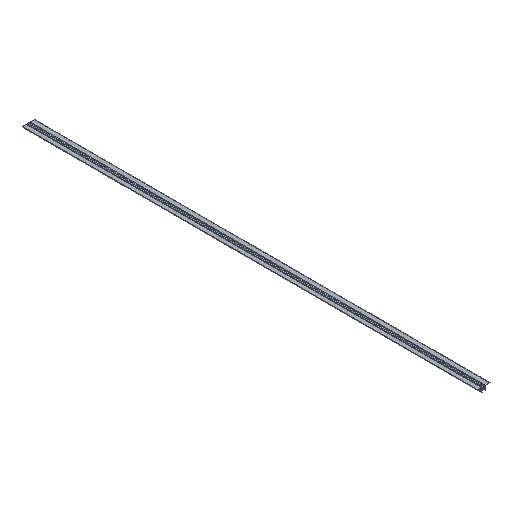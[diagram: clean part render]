
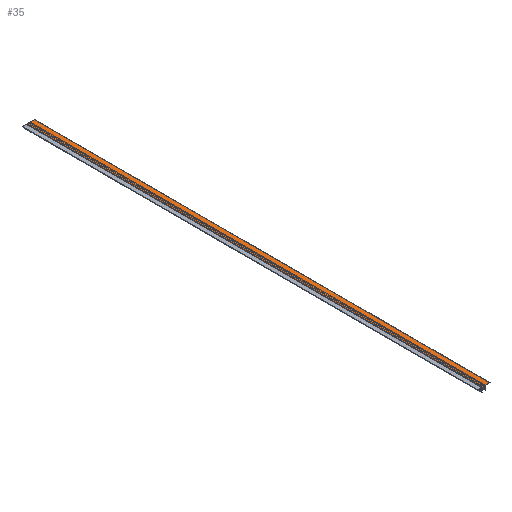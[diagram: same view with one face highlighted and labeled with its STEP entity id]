
A CAD part, isometric view. The second image highlights one B-rep face of the part: STEP entity #35.
In plain terms, the highlighted free-form (B-spline) face has degree [2, 1] with [3, 2] control points.
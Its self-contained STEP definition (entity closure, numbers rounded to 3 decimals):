
#35=ADVANCED_FACE('',(#104),#2589,.T.);
#104=FACE_OUTER_BOUND('',#173,.T.);
#173=EDGE_LOOP('',(#275,#276,#277,#278));
#275=ORIENTED_EDGE('',*,*,#1940,.T.);
#276=ORIENTED_EDGE('',*,*,#1941,.T.);
#277=ORIENTED_EDGE('',*,*,#1942,.T.);
#278=ORIENTED_EDGE('',*,*,#1938,.F.);
#674=PCURVE('',#2588,#1076);
#677=PCURVE('',#2589,#1079);
#678=PCURVE('',#2589,#1080);
#679=PCURVE('',#2589,#1081);
#680=PCURVE('',#2589,#1082);
#684=PCURVE('',#2590,#1086);
#956=PCURVE('',#2576,#1358);
#979=PCURVE('',#2577,#1381);
#1076=DEFINITIONAL_REPRESENTATION('',(#1478),#4834);
#1079=DEFINITIONAL_REPRESENTATION('',(#1481),#4834);
#1080=DEFINITIONAL_REPRESENTATION('',(#1482),#4834);
#1081=DEFINITIONAL_REPRESENTATION('',(#1483),#4834);
#1082=DEFINITIONAL_REPRESENTATION('',(#1484),#4834);
#1086=DEFINITIONAL_REPRESENTATION('',(#1488),#4834);
#1358=DEFINITIONAL_REPRESENTATION('',(#2363),#4834);
#1381=DEFINITIONAL_REPRESENTATION('',(#2386),#4834);
#1478=B_SPLINE_CURVE_WITH_KNOTS('',1,(#3440,#3441),.UNSPECIFIED.,.F.,.F.,
(2,2),(0.,2000.),.UNSPECIFIED.);
#1481=B_SPLINE_CURVE_WITH_KNOTS('',1,(#3452,#3453),.UNSPECIFIED.,.F.,.F.,
(2,2),(-384.165,-349.663),.UNSPECIFIED.);
#1482=B_SPLINE_CURVE_WITH_KNOTS('',1,(#3456,#3457),.UNSPECIFIED.,.F.,.F.,
(2,2),(0.,2000.),.UNSPECIFIED.);
#1483=B_SPLINE_CURVE_WITH_KNOTS('',1,(#3461,#3462),.UNSPECIFIED.,.F.,.F.,
(2,2),(349.663,384.165),.UNSPECIFIED.);
#1484=B_SPLINE_CURVE_WITH_KNOTS('',1,(#3463,#3464),.UNSPECIFIED.,.F.,.F.,
(2,2),(0.,2000.),.UNSPECIFIED.);
#1488=B_SPLINE_CURVE_WITH_KNOTS('',1,(#3479,#3480),.UNSPECIFIED.,.F.,.F.,
(2,2),(0.,2000.),.UNSPECIFIED.);
#1737=SURFACE_CURVE('',#2139,(#674,#680),.PCURVE_S1.);
#1739=SURFACE_CURVE('',#2141,(#677,#956),.PCURVE_S1.);
#1740=SURFACE_CURVE('',#2142,(#678,#684),.PCURVE_S1.);
#1741=SURFACE_CURVE('',#2143,(#679,#979),.PCURVE_S1.);
#1938=EDGE_CURVE('',#2464,#2465,#1737,.T.);
#1940=EDGE_CURVE('',#2464,#2466,#1739,.T.);
#1941=EDGE_CURVE('',#2466,#2467,#1740,.T.);
#1942=EDGE_CURVE('',#2467,#2465,#1741,.T.);
#2139=(
BOUNDED_CURVE()
B_SPLINE_CURVE(1,(#3438,#3439),.UNSPECIFIED.,.F.,.F.)
B_SPLINE_CURVE_WITH_KNOTS((2,2),(0.,2000.),.UNSPECIFIED.)
CURVE()
GEOMETRIC_REPRESENTATION_ITEM()
RATIONAL_B_SPLINE_CURVE((1.,1.))
REPRESENTATION_ITEM('')
);
#2141=(
BOUNDED_CURVE()
B_SPLINE_CURVE(2,(#3449,#3450,#3451),.UNSPECIFIED.,.F.,.F.)
B_SPLINE_CURVE_WITH_KNOTS((3,3),(-384.165,-349.663),
 .UNSPECIFIED.)
CURVE()
GEOMETRIC_REPRESENTATION_ITEM()
RATIONAL_B_SPLINE_CURVE((1.,1.,1.))
REPRESENTATION_ITEM('')
);
#2142=(
BOUNDED_CURVE()
B_SPLINE_CURVE(1,(#3454,#3455),.UNSPECIFIED.,.F.,.F.)
B_SPLINE_CURVE_WITH_KNOTS((2,2),(0.,2000.),.UNSPECIFIED.)
CURVE()
GEOMETRIC_REPRESENTATION_ITEM()
RATIONAL_B_SPLINE_CURVE((1.,1.))
REPRESENTATION_ITEM('')
);
#2143=(
BOUNDED_CURVE()
B_SPLINE_CURVE(2,(#3458,#3459,#3460),.UNSPECIFIED.,.F.,.F.)
B_SPLINE_CURVE_WITH_KNOTS((3,3),(349.663,384.165),
 .UNSPECIFIED.)
CURVE()
GEOMETRIC_REPRESENTATION_ITEM()
RATIONAL_B_SPLINE_CURVE((1.,1.,1.))
REPRESENTATION_ITEM('')
);
#2363=(
BOUNDED_CURVE()
B_SPLINE_CURVE(2,(#4568,#4569,#4570),.UNSPECIFIED.,.F.,.F.)
B_SPLINE_CURVE_WITH_KNOTS((3,3),(-384.165,-349.663),
 .UNSPECIFIED.)
CURVE()
GEOMETRIC_REPRESENTATION_ITEM()
RATIONAL_B_SPLINE_CURVE((1.,1.,1.))
REPRESENTATION_ITEM('')
);
#2386=(
BOUNDED_CURVE()
B_SPLINE_CURVE(2,(#4645,#4646,#4647),.UNSPECIFIED.,.F.,.F.)
B_SPLINE_CURVE_WITH_KNOTS((3,3),(349.663,384.165),
 .UNSPECIFIED.)
CURVE()
GEOMETRIC_REPRESENTATION_ITEM()
RATIONAL_B_SPLINE_CURVE((1.,1.,1.))
REPRESENTATION_ITEM('')
);
#2464=VERTEX_POINT('',#3151);
#2465=VERTEX_POINT('',#3152);
#2466=VERTEX_POINT('',#3153);
#2467=VERTEX_POINT('',#3154);
#2576=B_SPLINE_SURFACE_WITH_KNOTS('',1,1,((#3121,#3122),(#3123,#3124)),
 .UNSPECIFIED.,.F.,.F.,.F.,(2,2),(2,2),(-14.398,11.227),
(-27.199,40.301),.UNSPECIFIED.);
#2577=B_SPLINE_SURFACE_WITH_KNOTS('',1,1,((#3125,#3126),(#3127,#3128)),
 .UNSPECIFIED.,.F.,.F.,.F.,(2,2),(2,2),(-27.199,40.301),
(-14.398,11.227),.UNSPECIFIED.);
#2588=(
BOUNDED_SURFACE()
B_SPLINE_SURFACE(2,1,((#2739,#2740),(#2741,#2742),(#2743,#2744)),
 .UNSPECIFIED.,.F.,.F.,.F.)
B_SPLINE_SURFACE_WITH_KNOTS((3,3),(2,2),(-384.479,-384.165),
(0.,2000.),.UNSPECIFIED.)
GEOMETRIC_REPRESENTATION_ITEM()
RATIONAL_B_SPLINE_SURFACE(((1.,1.),(0.707,0.707),
(1.,1.)))
REPRESENTATION_ITEM('')
SURFACE()
);
#2589=(
BOUNDED_SURFACE()
B_SPLINE_SURFACE(2,1,((#2745,#2746),(#2747,#2748),(#2749,#2750)),
 .UNSPECIFIED.,.F.,.F.,.F.)
B_SPLINE_SURFACE_WITH_KNOTS((3,3),(2,2),(-384.165,-349.663),
(0.,2000.),.UNSPECIFIED.)
GEOMETRIC_REPRESENTATION_ITEM()
RATIONAL_B_SPLINE_SURFACE(((1.,1.),(1.,1.),(1.,1.)))
REPRESENTATION_ITEM('')
SURFACE()
);
#2590=(
BOUNDED_SURFACE()
B_SPLINE_SURFACE(2,1,((#2751,#2752),(#2753,#2754),(#2755,#2756)),
 .UNSPECIFIED.,.F.,.F.,.F.)
B_SPLINE_SURFACE_WITH_KNOTS((3,3),(2,2),(-349.663,-349.286),
(0.,2000.),.UNSPECIFIED.)
GEOMETRIC_REPRESENTATION_ITEM()
RATIONAL_B_SPLINE_SURFACE(((1.,1.),(1.,1.),(1.,1.)))
REPRESENTATION_ITEM('')
SURFACE()
);
#2739=CARTESIAN_POINT('',(27.,2000.,20.397));
#2740=CARTESIAN_POINT('',(27.,0.,20.397));
#2741=CARTESIAN_POINT('',(27.,2000.,20.597));
#2742=CARTESIAN_POINT('',(27.,0.,20.597));
#2743=CARTESIAN_POINT('',(26.8,2000.,20.597));
#2744=CARTESIAN_POINT('',(26.8,0.,20.597));
#2745=CARTESIAN_POINT('',(26.8,2000.,20.597));
#2746=CARTESIAN_POINT('',(26.8,0.,20.597));
#2747=CARTESIAN_POINT('',(9.48,2000.,20.597));
#2748=CARTESIAN_POINT('',(9.48,0.,20.597));
#2749=CARTESIAN_POINT('',(-7.839,2000.,20.597));
#2750=CARTESIAN_POINT('',(-7.839,0.,20.597));
#2751=CARTESIAN_POINT('',(-7.839,2000.,20.597));
#2752=CARTESIAN_POINT('',(-7.839,0.,20.597));
#2753=CARTESIAN_POINT('',(-8.004,2000.,20.505));
#2754=CARTESIAN_POINT('',(-8.004,0.,20.505));
#2755=CARTESIAN_POINT('',(-8.169,2000.,20.413));
#2756=CARTESIAN_POINT('',(-8.169,0.,20.413));
#3121=CARTESIAN_POINT('',(33.75,2000.,23.159));
#3122=CARTESIAN_POINT('',(-33.75,2000.,23.159));
#3123=CARTESIAN_POINT('',(33.75,2000.,-2.466));
#3124=CARTESIAN_POINT('',(-33.75,2000.,-2.466));
#3125=CARTESIAN_POINT('',(33.75,0.,23.159));
#3126=CARTESIAN_POINT('',(33.75,0.,-2.466));
#3127=CARTESIAN_POINT('',(-33.75,0.,23.159));
#3128=CARTESIAN_POINT('',(-33.75,0.,-2.466));
#3151=CARTESIAN_POINT('',(26.8,2000.,20.597));
#3152=CARTESIAN_POINT('',(26.8,0.,20.597));
#3153=CARTESIAN_POINT('',(-7.839,2000.,20.597));
#3154=CARTESIAN_POINT('',(-7.839,0.,20.597));
#3438=CARTESIAN_POINT('',(26.8,2000.,20.597));
#3439=CARTESIAN_POINT('',(26.8,0.,20.597));
#3440=CARTESIAN_POINT('',(-384.165,0.));
#3441=CARTESIAN_POINT('',(-384.165,2000.));
#3449=CARTESIAN_POINT('',(26.8,2000.,20.597));
#3450=CARTESIAN_POINT('',(9.48,2000.,20.597));
#3451=CARTESIAN_POINT('',(-7.839,2000.,20.597));
#3452=CARTESIAN_POINT('',(-384.165,0.));
#3453=CARTESIAN_POINT('',(-349.663,0.));
#3454=CARTESIAN_POINT('',(-7.839,2000.,20.597));
#3455=CARTESIAN_POINT('',(-7.839,0.,20.597));
#3456=CARTESIAN_POINT('',(-349.663,0.));
#3457=CARTESIAN_POINT('',(-349.663,2000.));
#3458=CARTESIAN_POINT('',(-7.839,0.,20.597));
#3459=CARTESIAN_POINT('',(9.48,0.,20.597));
#3460=CARTESIAN_POINT('',(26.8,0.,20.597));
#3461=CARTESIAN_POINT('',(-349.663,2000.));
#3462=CARTESIAN_POINT('',(-384.165,2000.));
#3463=CARTESIAN_POINT('',(-384.165,0.));
#3464=CARTESIAN_POINT('',(-384.165,2000.));
#3479=CARTESIAN_POINT('',(-349.663,0.));
#3480=CARTESIAN_POINT('',(-349.663,2000.));
#4568=CARTESIAN_POINT('',(-11.836,-20.249));
#4569=CARTESIAN_POINT('',(-11.836,-2.929));
#4570=CARTESIAN_POINT('',(-11.836,14.39));
#4645=CARTESIAN_POINT('',(14.39,-11.836));
#4646=CARTESIAN_POINT('',(-2.929,-11.836));
#4647=CARTESIAN_POINT('',(-20.249,-11.836));
#4834=(
GEOMETRIC_REPRESENTATION_CONTEXT(2)
PARAMETRIC_REPRESENTATION_CONTEXT()
REPRESENTATION_CONTEXT('pspace','')
);
